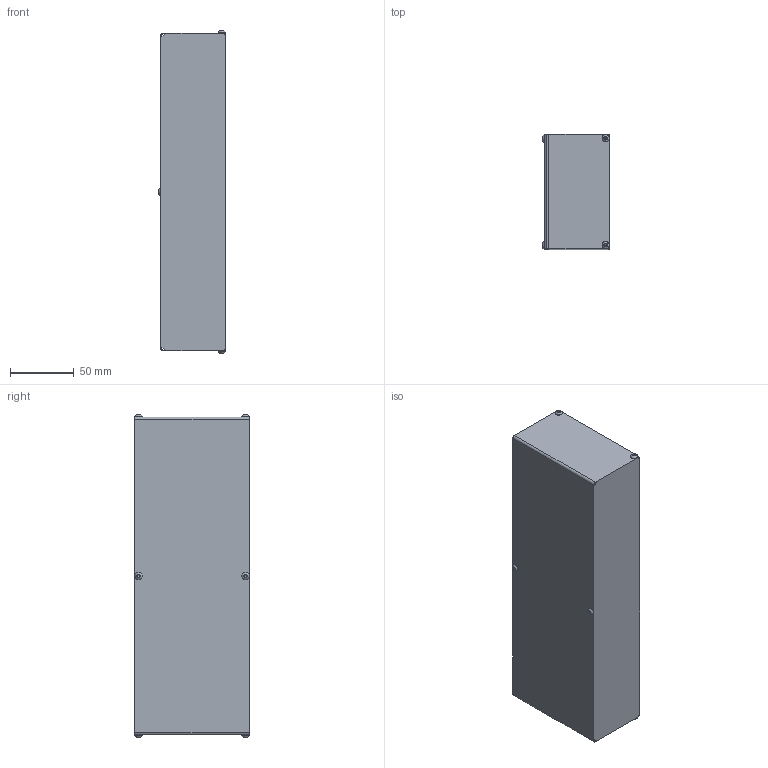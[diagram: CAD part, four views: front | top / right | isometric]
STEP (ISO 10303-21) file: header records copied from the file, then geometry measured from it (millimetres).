
FILE_DESCRIPTION(/* description */ (''),/* implementation_level */ '2;1');
FILE_NAME(/* name */ 'X:\VIRI ZA WEB\CAD DATOTEKE\LINEARNE ENOTE UNIMOTION\DODATNA OPREMA ZA LINEARNE ENOTE\STRANSKI POGONI\CTV-MTV\CTV 110-MTV 65\MSD CTV 110 T2 1,5 72 X 72\izvoz\CAD_71385.stp',/* time_stamp */ '2016-06-06T10:08:03+02:00',/* author */ ('Hypex'),/* organization */ ('Hypex'),/* preprocessor_version */ 'ST-DEVELOPER v16.1',/* originating_system */ 'Autodesk Inventor 2016',/* authorisation */ '');
FILE_SCHEMA (('AUTOMOTIVE_DESIGN { 1 0 10303 214 3 1 1 }'));
Length unit declared in the file: millimetre
Products named in the file (1): CAD_71385
Bounding box: 52.65 x 90 x 253.3 mm (x, y, z)
Volume: 1128072.9 mm3; surface area: 83955 mm2
Topology: 1 solids, 13 shells, 198 faces, 488 edges, 323 vertices
Faces by surface type: plane 113, cylinder 53, cone 20, bspline 6, torus 6
Full cylindrical faces by diameter (mm): 2.459 x4, 3 x6, 4 x6, 5.7 x6, 6.2 x8, 25 x1
Entity records: 5591 total; most frequent: CARTESIAN_POINT 1121, DIRECTION 882, ORIENTED_EDGE 792, EDGE_CURVE 396, AXIS2_PLACEMENT_3D 335, VERTEX_POINT 286, EDGE_LOOP 276, LINE 212
